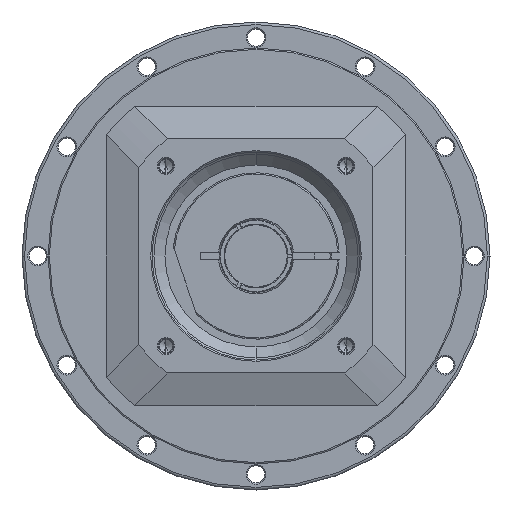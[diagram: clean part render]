
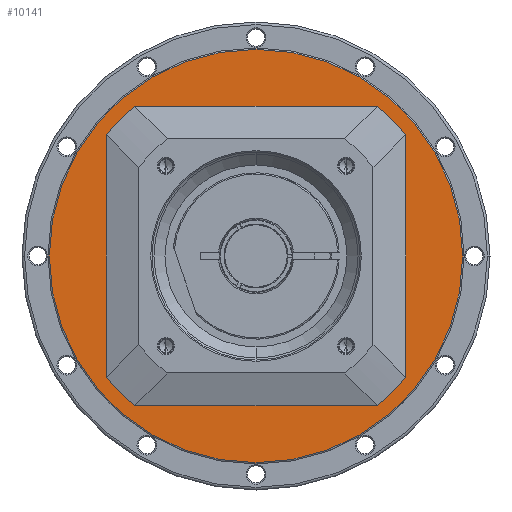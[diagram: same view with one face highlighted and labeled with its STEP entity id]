
A CAD part, left-side view. The second image highlights one B-rep face of the part: STEP entity #10141.
In plain terms, the highlighted planar face has unit normal (-1, 0, 0) as drawn and (1, 0, 0) by its records, which use the part's own axes.
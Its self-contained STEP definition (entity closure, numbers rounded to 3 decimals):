
#9172=CARTESIAN_POINT('',(-4.,0.,0.));
#9173=DIRECTION('',(-1.,0.,0.));
#9174=DIRECTION('',(0.,-1.,0.));
#9175=AXIS2_PLACEMENT_3D('',#9172,#9173,#9174);
#9177=CARTESIAN_POINT('',(-4.,0.,0.));
#9178=DIRECTION('',(-1.,0.,0.));
#9179=DIRECTION('',(0.,1.,0.));
#9180=AXIS2_PLACEMENT_3D('',#9177,#9178,#9179);
#9182=CARTESIAN_POINT('',(-4.,0.,0.));
#9183=DIRECTION('',(-1.,0.,0.));
#9184=DIRECTION('',(0.,-1.,0.));
#9185=AXIS2_PLACEMENT_3D('',#9182,#9183,#9184);
#9187=CARTESIAN_POINT('',(-4.,0.,0.));
#9188=DIRECTION('',(-1.,0.,0.));
#9189=DIRECTION('',(0.,1.,0.));
#9190=AXIS2_PLACEMENT_3D('',#9187,#9188,#9189);
#9420=CARTESIAN_POINT('',(-4.,-79.5,0.));
#9421=CARTESIAN_POINT('',(-4.,79.5,0.));
#9422=VERTEX_POINT('',#9420);
#9423=VERTEX_POINT('',#9421);
#9436=CARTESIAN_POINT('',(-4.,-54.25,0.));
#9437=CARTESIAN_POINT('',(-4.,54.25,0.));
#9438=VERTEX_POINT('',#9436);
#9439=VERTEX_POINT('',#9437);
#10126=CARTESIAN_POINT('',(-4.,0.,0.));
#10127=DIRECTION('',(1.,0.,0.));
#10128=DIRECTION('',(0.,-1.,0.));
#10129=AXIS2_PLACEMENT_3D('',#10126,#10127,#10128);
#10130=PLANE('',#10129);
#10131=ORIENTED_EDGE('',*,*,#10082,.T.);
#10132=ORIENTED_EDGE('',*,*,#10067,.T.);
#10133=EDGE_LOOP('',(#10131,#10132));
#10134=FACE_OUTER_BOUND('',#10133,.F.);
#10136=ORIENTED_EDGE('',*,*,#10135,.F.);
#10138=ORIENTED_EDGE('',*,*,#10137,.F.);
#10139=EDGE_LOOP('',(#10136,#10138));
#10140=FACE_BOUND('',#10139,.F.);
#10141=ADVANCED_FACE('',(#10134,#10140),#10130,.T.);
#9176=CIRCLE('',#9175,54.25);
#9181=CIRCLE('',#9180,54.25);
#9186=CIRCLE('',#9185,79.5);
#9191=CIRCLE('',#9190,79.5);
#10067=EDGE_CURVE('',#9423,#9422,#9191,.T.);
#10082=EDGE_CURVE('',#9422,#9423,#9186,.T.);
#10135=EDGE_CURVE('',#9438,#9439,#9176,.T.);
#10137=EDGE_CURVE('',#9439,#9438,#9181,.T.);
